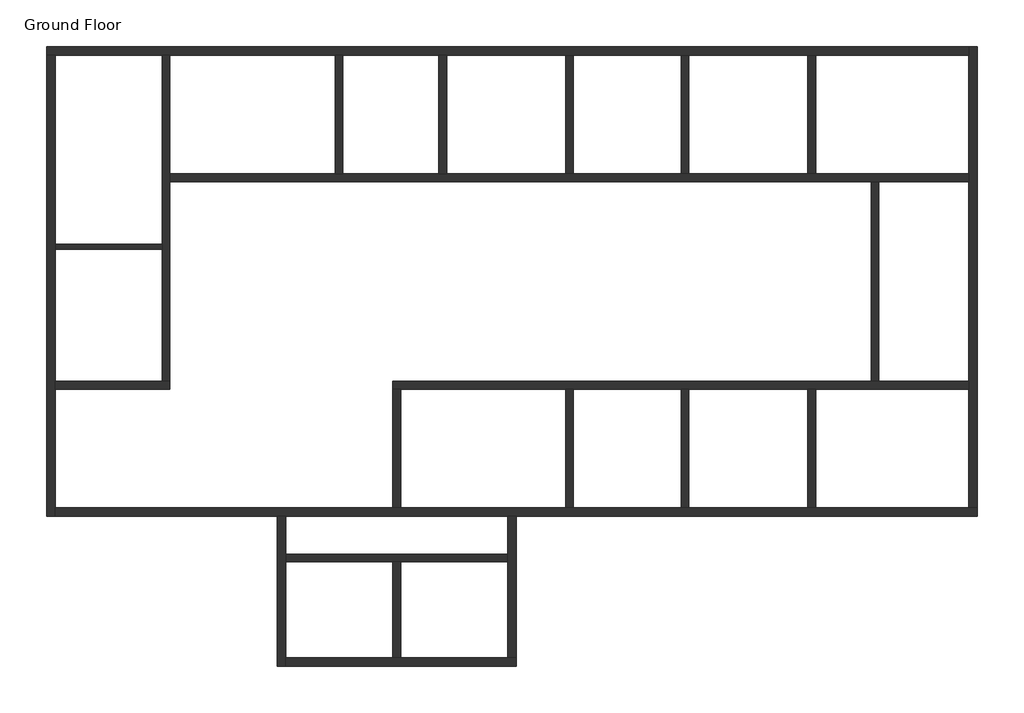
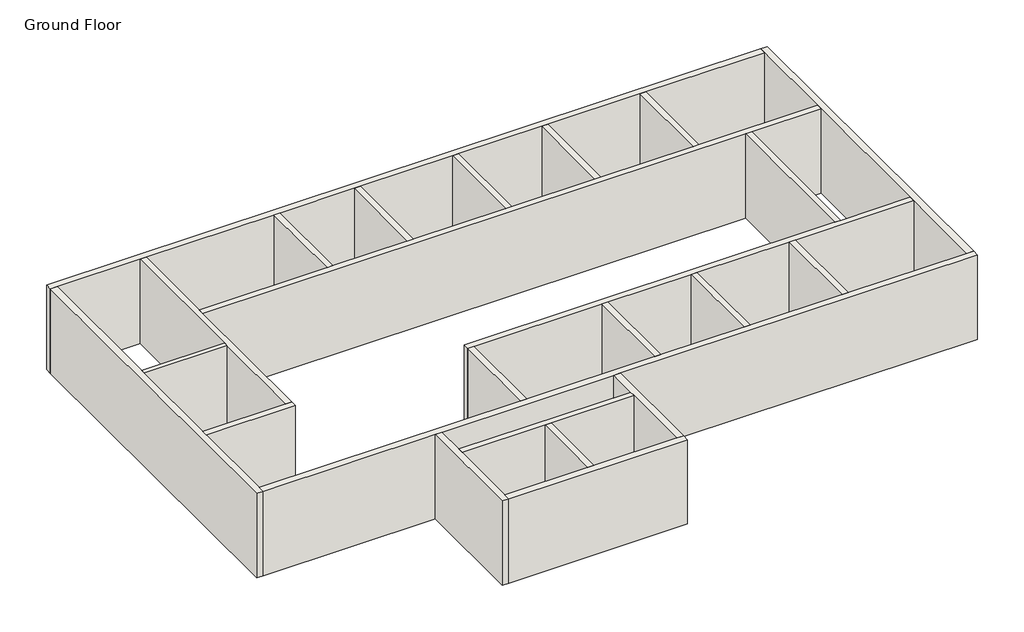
# One storey: 24 walls.
"""IFC4 building model written with IfcOpenShell, lengths in millimetres."""

from ifc_helpers import new_model, si_unit, origin, origin_with_axes, place, context, project, spatial, polyline, outline, extrude, faceted_brep, element, save

model = new_model("IFC4")

# Units and contexts
model_context = context("Model", 3, world=origin())
ifc_project = project(units=[si_unit("LENGTHUNIT", "METRE", prefix="MILLI")], contexts=[model_context])

# Site, building, storey
site = spatial("IfcSite", under=ifc_project)
building = spatial("IfcBuilding", under=site)
storey = spatial("IfcBuildingStorey", under=building, Name="Ground Floor", Elevation=0.0)

# Walls
placement = place(None, origin())
element("IfcWall", 1, ObjectType="Generic - 5\"", at=placement, inside=storey, context=model_context, shape_type="SweptSolid", body=[
    extrude(outline(polyline([(-9539.2044048, 2529.4851347), (-12371.3044048, 2529.4851347), (-12371.3044048, 2656.4851347), (-9539.2044048, 2656.4851347), (-9539.2044048, 2529.4851347)])), origin_with_axes(), (0.0, 0.0, 1.0), 3048.0),
])
element("IfcWall", 2, ObjectType="Generic - 8\"", at=placement, inside=storey, context=model_context, shape_type="Brep", body=[
    faceted_brep([(-9539.2044048, 7660.2851347, 0.0), (-9539.2044048, 2656.4851347, 0.0), (-9539.2044048, 2529.4851347, 0.0), (-9539.2044048, -963.0148653, 0.0), (-9539.2044048, -963.0148653, 3048.0), (-9539.2044048, 2529.4851347, 3048.0), (-9539.2044048, 2656.4851347, 3048.0), (-9539.2044048, 7660.2851347, 3048.0), (-9336.0044048, 7660.2851347, 0.0), (-9336.0044048, 7660.2851347, 3048.0), (-9336.0044048, 4523.3851347, 3048.0), (-9336.0044048, 4320.1851347, 3048.0), (-9336.0044048, -963.0148653, 3048.0), (-9336.0044048, -963.0148653, 0.0), (-9336.0044048, 4320.1851347, 0.0), (-9336.0044048, 4523.3851347, 0.0)], [[[0, 1, 2, 3, 4, 5, 6, 7]], [[8, 9, 10, 11, 12, 13, 14, 15]], [[3, 2, 1, 0, 8, 15, 14, 13]], [[7, 6, 5, 4, 12, 11, 10, 9]], [[0, 7, 9, 8]], [[4, 3, 13, 12]]]),
])
element("IfcWall", 3, ObjectType="Generic - 8\"", at=placement, inside=storey, context=model_context, shape_type="Brep", body=[
    faceted_brep([(-9336.0044048, -963.0148653, 0.0), (-9539.2044048, -963.0148653, 0.0), (-12371.3044048, -963.0148653, 0.0), (-12371.3044048, -963.0148653, 3048.0), (-9539.2044048, -963.0148653, 3048.0), (-9336.0044048, -963.0148653, 3048.0), (-9336.0044048, -1166.2148653, 0.0), (-9336.0044048, -1166.2148653, 3048.0), (-12371.3044048, -1166.2148653, 3048.0), (-12371.3044048, -1166.2148653, 0.0)], [[[0, 1, 2, 3, 4, 5]], [[6, 7, 8, 9]], [[2, 1, 0, 6, 9]], [[5, 4, 3, 8, 7]], [[3, 2, 9, 8]], [[0, 5, 7, 6]]]),
])
element("IfcWall", 4, ObjectType="Generic - 8\"", at=placement, inside=storey, context=model_context, shape_type="Brep", body=[
    faceted_brep([(-9336.0044048, 4320.1851347, 0.0), (9205.9955952, 4320.1851347, 0.0), (9409.1955952, 4320.1851347, 0.0), (11784.0955952, 4320.1851347, 0.0), (11784.0955952, 4320.1851347, 3048.0), (9409.1955952, 4320.1851347, 3048.0), (9205.9955952, 4320.1851347, 3048.0), (-9336.0044048, 4320.1851347, 3048.0), (-9336.0044048, 4523.3851347, 0.0), (-9336.0044048, 4523.3851347, 3048.0), (-4967.2044048, 4523.3851347, 3048.0), (-4764.0044048, 4523.3851347, 3048.0), (-2224.0044048, 4523.3851347, 3048.0), (-2020.8044048, 4523.3851347, 3048.0), (1128.7955952, 4523.3851347, 3048.0), (1331.9955952, 4523.3851347, 3048.0), (4176.7955952, 4523.3851347, 3048.0), (4379.9955952, 4523.3851347, 3048.0), (7529.5955952, 4523.3851347, 3048.0), (7732.7955952, 4523.3851347, 3048.0), (11784.0955952, 4523.3851347, 3048.0), (11784.0955952, 4523.3851347, 0.0), (7732.7955952, 4523.3851347, 0.0), (7529.5955952, 4523.3851347, 0.0), (4379.9955952, 4523.3851347, 0.0), (4176.7955952, 4523.3851347, 0.0), (1331.9955952, 4523.3851347, 0.0), (1128.7955952, 4523.3851347, 0.0), (-2020.8044048, 4523.3851347, 0.0), (-2224.0044048, 4523.3851347, 0.0), (-4764.0044048, 4523.3851347, 0.0), (-4967.2044048, 4523.3851347, 0.0)], [[[0, 1, 2, 3, 4, 5, 6, 7]], [[8, 9, 10, 11, 12, 13, 14, 15, 16, 17, 18, 19, 20, 21, 22, 23, 24, 25, 26, 27, 28, 29, 30, 31]], [[3, 2, 1, 0, 8, 31, 30, 29, 28, 27, 26, 25, 24, 23, 22, 21]], [[7, 6, 5, 4, 20, 19, 18, 17, 16, 15, 14, 13, 12, 11, 10, 9]], [[4, 3, 21, 20]], [[0, 7, 9, 8]]]),
])
element("IfcWall", 5, ObjectType="Generic - 8\"", at=placement, inside=storey, context=model_context, shape_type="SweptSolid", body=[
    extrude(outline(polyline([(-4764.0044048, 7660.2851347), (-4764.0044048, 4523.3851347), (-4967.2044048, 4523.3851347), (-4967.2044048, 7660.2851347), (-4764.0044048, 7660.2851347)])), origin_with_axes(), (0.0, 0.0, 1.0), 3048.0),
])
element("IfcWall", 6, ObjectType="Generic - 8\"", at=placement, inside=storey, context=model_context, shape_type="SweptSolid", body=[
    extrude(outline(polyline([(-2224.0044048, 4523.3851347), (-2224.0044048, 7660.2851347), (-2020.8044048, 7660.2851347), (-2020.8044048, 4523.3851347), (-2224.0044048, 4523.3851347)])), origin_with_axes(), (0.0, 0.0, 1.0), 3048.0),
])
element("IfcWall", 7, ObjectType="Generic - 8\"", at=placement, inside=storey, context=model_context, shape_type="SweptSolid", body=[
    extrude(outline(polyline([(1128.7955952, 4523.3851347), (1128.7955952, 7660.2851347), (1331.9955952, 7660.2851347), (1331.9955952, 4523.3851347), (1128.7955952, 4523.3851347)])), origin_with_axes(), (0.0, 0.0, 1.0), 3048.0),
])
element("IfcWall", 8, ObjectType="Generic - 8\"", at=placement, inside=storey, context=model_context, shape_type="SweptSolid", body=[
    extrude(outline(polyline([(4176.7955952, 4523.3851347), (4176.7955952, 7660.2851347), (4379.9955952, 7660.2851347), (4379.9955952, 4523.3851347), (4176.7955952, 4523.3851347)])), origin_with_axes(), (0.0, 0.0, 1.0), 3048.0),
])
element("IfcWall", 9, ObjectType="Generic - 8\"", at=placement, inside=storey, context=model_context, shape_type="SweptSolid", body=[
    extrude(outline(polyline([(7529.5955952, 4523.3851347), (7529.5955952, 7660.2851347), (7732.7955952, 7660.2851347), (7732.7955952, 4523.3851347), (7529.5955952, 4523.3851347)])), origin_with_axes(), (0.0, 0.0, 1.0), 3048.0),
])
element("IfcWall", 10, ObjectType="Generic - 8\"", at=placement, inside=storey, context=model_context, shape_type="Brep", body=[
    faceted_brep([(-3443.2044048, -1166.2148653, 0.0), (-3240.0044048, -1166.2148653, 0.0), (1128.7955952, -1166.2148653, 0.0), (1331.9955952, -1166.2148653, 0.0), (4176.7955952, -1166.2148653, 0.0), (4379.9955952, -1166.2148653, 0.0), (7529.5955952, -1166.2148653, 0.0), (7732.7955952, -1166.2148653, 0.0), (11784.0955952, -1166.2148653, 0.0), (11784.0955952, -1166.2148653, 3048.0), (7732.7955952, -1166.2148653, 3048.0), (7529.5955952, -1166.2148653, 3048.0), (4379.9955952, -1166.2148653, 3048.0), (4176.7955952, -1166.2148653, 3048.0), (1331.9955952, -1166.2148653, 3048.0), (1128.7955952, -1166.2148653, 3048.0), (-3240.0044048, -1166.2148653, 3048.0), (-3443.2044048, -1166.2148653, 3048.0), (-3443.2044048, -963.0148653, 0.0), (-3443.2044048, -963.0148653, 3048.0), (9205.9955952, -963.0148653, 3048.0), (9409.1955952, -963.0148653, 3048.0), (11784.0955952, -963.0148653, 3048.0), (11784.0955952, -963.0148653, 0.0), (9409.1955952, -963.0148653, 0.0), (9205.9955952, -963.0148653, 0.0)], [[[0, 1, 2, 3, 4, 5, 6, 7, 8, 9, 10, 11, 12, 13, 14, 15, 16, 17]], [[18, 19, 20, 21, 22, 23, 24, 25]], [[8, 7, 6, 5, 4, 3, 2, 1, 0, 18, 25, 24, 23]], [[17, 16, 15, 14, 13, 12, 11, 10, 9, 22, 21, 20, 19]], [[9, 8, 23, 22]], [[0, 17, 19, 18]]]),
])
element("IfcWall", 11, ObjectType="Generic - 8\"", at=placement, inside=storey, context=model_context, shape_type="SweptSolid", body=[
    extrude(outline(polyline([(-3240.0044048, -1166.2148653), (-3240.0044048, -4303.1148653), (-3443.2044048, -4303.1148653), (-3443.2044048, -1166.2148653), (-3240.0044048, -1166.2148653)])), origin_with_axes(), (0.0, 0.0, 1.0), 3048.0),
])
element("IfcWall", 12, ObjectType="Generic - 8\"", at=placement, inside=storey, context=model_context, shape_type="SweptSolid", body=[
    extrude(outline(polyline([(1331.9955952, -1166.2148653), (1331.9955952, -4303.1148653), (1128.7955952, -4303.1148653), (1128.7955952, -1166.2148653), (1331.9955952, -1166.2148653)])), origin_with_axes(), (0.0, 0.0, 1.0), 3048.0),
])
element("IfcWall", 13, ObjectType="Generic - 8\"", at=placement, inside=storey, context=model_context, shape_type="SweptSolid", body=[
    extrude(outline(polyline([(4379.9955952, -1166.2148653), (4379.9955952, -4303.1148653), (4176.7955952, -4303.1148653), (4176.7955952, -1166.2148653), (4379.9955952, -1166.2148653)])), origin_with_axes(), (0.0, 0.0, 1.0), 3048.0),
])
element("IfcWall", 14, ObjectType="Generic - 8\"", at=placement, inside=storey, context=model_context, shape_type="SweptSolid", body=[
    extrude(outline(polyline([(7732.7955952, -1166.2148653), (7732.7955952, -4303.1148653), (7529.5955952, -4303.1148653), (7529.5955952, -1166.2148653), (7732.7955952, -1166.2148653)])), origin_with_axes(), (0.0, 0.0, 1.0), 3048.0),
])
element("IfcWall", 15, ObjectType="Generic - 8\"", at=placement, inside=storey, context=model_context, shape_type="SweptSolid", body=[
    extrude(outline(polyline([(9205.9955952, -963.0148653), (9205.9955952, 4320.1851347), (9409.1955952, 4320.1851347), (9409.1955952, -963.0148653), (9205.9955952, -963.0148653)])), origin_with_axes(), (0.0, 0.0, 1.0), 3048.0),
])
element("IfcWall", 16, ObjectType="Generic - 8\"", at=placement, inside=storey, context=model_context, shape_type="SweptSolid", body=[
    extrude(outline(polyline([(-3240.0044048, -5738.2148653), (-3240.0044048, -8265.5148653), (-3443.2044048, -8265.5148653), (-3443.2044048, -5738.2148653), (-3240.0044048, -5738.2148653)])), origin_with_axes(), (0.0, 0.0, 1.0), 3048.0),
])
element("IfcWall", 17, ObjectType="Generic - 8\"", at=placement, inside=storey, context=model_context, shape_type="Brep", body=[
    faceted_brep([(-407.9044048, -5535.0148653, 0.0), (-6275.3044048, -5535.0148653, 0.0), (-6275.3044048, -5535.0148653, 3048.0), (-407.9044048, -5535.0148653, 3048.0), (-407.9044048, -5738.2148653, 0.0), (-407.9044048, -5738.2148653, 3048.0), (-3240.0044048, -5738.2148653, 3048.0), (-3443.2044048, -5738.2148653, 3048.0), (-6275.3044048, -5738.2148653, 3048.0), (-6275.3044048, -5738.2148653, 0.0), (-3443.2044048, -5738.2148653, 0.0), (-3240.0044048, -5738.2148653, 0.0)], [[[0, 1, 2, 3]], [[4, 5, 6, 7, 8, 9, 10, 11]], [[1, 0, 4, 11, 10, 9]], [[3, 2, 8, 7, 6, 5]], [[2, 1, 9, 8]], [[0, 3, 5, 4]]]),
])
element("IfcWall", 18, ObjectType="Generic- 9\"", at=placement, inside=storey, context=model_context, shape_type="Brep", body=[
    faceted_brep([(-12599.9044048, 7660.2851347, 0.0), (-12371.3044048, 7660.2851347, 0.0), (-9539.2044048, 7660.2851347, 0.0), (-9336.0044048, 7660.2851347, 0.0), (-4967.2044048, 7660.2851347, 0.0), (-4764.0044048, 7660.2851347, 0.0), (-2224.0044048, 7660.2851347, 0.0), (-2020.8044048, 7660.2851347, 0.0), (1128.7955952, 7660.2851347, 0.0), (1331.9955952, 7660.2851347, 0.0), (4176.7955952, 7660.2851347, 0.0), (4379.9955952, 7660.2851347, 0.0), (7529.5955952, 7660.2851347, 0.0), (7732.7955952, 7660.2851347, 0.0), (11784.0955952, 7660.2851347, 0.0), (11784.0955952, 7660.2851347, 3048.0), (7732.7955952, 7660.2851347, 3048.0), (7529.5955952, 7660.2851347, 3048.0), (4379.9955952, 7660.2851347, 3048.0), (4176.7955952, 7660.2851347, 3048.0), (1331.9955952, 7660.2851347, 3048.0), (1128.7955952, 7660.2851347, 3048.0), (-2020.8044048, 7660.2851347, 3048.0), (-2224.0044048, 7660.2851347, 3048.0), (-4764.0044048, 7660.2851347, 3048.0), (-4967.2044048, 7660.2851347, 3048.0), (-9336.0044048, 7660.2851347, 3048.0), (-9539.2044048, 7660.2851347, 3048.0), (-12371.3044048, 7660.2851347, 3048.0), (-12599.9044048, 7660.2851347, 3048.0), (-12599.9044048, 7888.8851347, 0.0), (-12599.9044048, 7888.8851347, 3048.0), (11784.0955952, 7888.8851347, 3048.0), (11784.0955952, 7888.8851347, 0.0)], [[[0, 1, 2, 3, 4, 5, 6, 7, 8, 9, 10, 11, 12, 13, 14, 15, 16, 17, 18, 19, 20, 21, 22, 23, 24, 25, 26, 27, 28, 29]], [[30, 31, 32, 33]], [[14, 13, 12, 11, 10, 9, 8, 7, 6, 5, 4, 3, 2, 1, 0, 30, 33]], [[29, 28, 27, 26, 25, 24, 23, 22, 21, 20, 19, 18, 17, 16, 15, 32, 31]], [[0, 29, 31, 30]], [[15, 14, 33, 32]]]),
])
element("IfcWall", 19, ObjectType="Generic- 9\"", at=placement, inside=storey, context=model_context, shape_type="Brep", body=[
    faceted_brep([(-12371.3044048, -4531.7148653, 0.0), (-12371.3044048, -4303.1148653, 0.0), (-12371.3044048, -1166.2148653, 0.0), (-12371.3044048, -963.0148653, 0.0), (-12371.3044048, 2529.4851347, 0.0), (-12371.3044048, 2656.4851347, 0.0), (-12371.3044048, 7660.2851347, 0.0), (-12371.3044048, 7660.2851347, 3048.0), (-12371.3044048, 2656.4851347, 3048.0), (-12371.3044048, 2529.4851347, 3048.0), (-12371.3044048, -963.0148653, 3048.0), (-12371.3044048, -1166.2148653, 3048.0), (-12371.3044048, -4303.1148653, 3048.0), (-12371.3044048, -4531.7148653, 3048.0), (-12599.9044048, -4531.7148653, 0.0), (-12599.9044048, -4531.7148653, 3048.0), (-12599.9044048, 7660.2851347, 3048.0), (-12599.9044048, 7660.2851347, 0.0)], [[[0, 1, 2, 3, 4, 5, 6, 7, 8, 9, 10, 11, 12, 13]], [[14, 15, 16, 17]], [[6, 5, 4, 3, 2, 1, 0, 14, 17]], [[13, 12, 11, 10, 9, 8, 7, 16, 15]], [[0, 13, 15, 14]], [[7, 6, 17, 16]]]),
])
element("IfcWall", 20, ObjectType="Generic- 9\"", at=placement, inside=storey, context=model_context, shape_type="Brep", body=[
    faceted_brep([(12012.6955952, -4303.1148653, 0.0), (11784.0955952, -4303.1148653, 0.0), (7732.7955952, -4303.1148653, 0.0), (7529.5955952, -4303.1148653, 0.0), (4379.9955952, -4303.1148653, 0.0), (4176.7955952, -4303.1148653, 0.0), (1331.9955952, -4303.1148653, 0.0), (1128.7955952, -4303.1148653, 0.0), (-3240.0044048, -4303.1148653, 0.0), (-3443.2044048, -4303.1148653, 0.0), (-12371.3044048, -4303.1148653, 0.0), (-12371.3044048, -4303.1148653, 3048.0), (-3443.2044048, -4303.1148653, 3048.0), (-3240.0044048, -4303.1148653, 3048.0), (1128.7955952, -4303.1148653, 3048.0), (1331.9955952, -4303.1148653, 3048.0), (4176.7955952, -4303.1148653, 3048.0), (4379.9955952, -4303.1148653, 3048.0), (7529.5955952, -4303.1148653, 3048.0), (7732.7955952, -4303.1148653, 3048.0), (11784.0955952, -4303.1148653, 3048.0), (12012.6955952, -4303.1148653, 3048.0), (12012.6955952, -4531.7148653, 0.0), (12012.6955952, -4531.7148653, 3048.0), (-179.3044048, -4531.7148653, 3048.0), (-407.9044048, -4531.7148653, 3048.0), (-6275.3044048, -4531.7148653, 3048.0), (-6503.9044048, -4531.7148653, 3048.0), (-12371.3044048, -4531.7148653, 3048.0), (-12371.3044048, -4531.7148653, 0.0), (-6503.9044048, -4531.7148653, 0.0), (-6275.3044048, -4531.7148653, 0.0), (-407.9044048, -4531.7148653, 0.0), (-179.3044048, -4531.7148653, 0.0)], [[[0, 1, 2, 3, 4, 5, 6, 7, 8, 9, 10, 11, 12, 13, 14, 15, 16, 17, 18, 19, 20, 21]], [[22, 23, 24, 25, 26, 27, 28, 29, 30, 31, 32, 33]], [[10, 9, 8, 7, 6, 5, 4, 3, 2, 1, 0, 22, 33, 32, 31, 30, 29]], [[21, 20, 19, 18, 17, 16, 15, 14, 13, 12, 11, 28, 27, 26, 25, 24, 23]], [[0, 21, 23, 22]], [[11, 10, 29, 28]]]),
])
element("IfcWall", 21, ObjectType="Generic- 9\"", at=placement, inside=storey, context=model_context, shape_type="Brep", body=[
    faceted_brep([(11784.0955952, 7888.8851347, 0.0), (11784.0955952, 7660.2851347, 0.0), (11784.0955952, 4523.3851347, 0.0), (11784.0955952, 4320.1851347, 0.0), (11784.0955952, -963.0148653, 0.0), (11784.0955952, -1166.2148653, 0.0), (11784.0955952, -4303.1148653, 0.0), (11784.0955952, -4303.1148653, 3048.0), (11784.0955952, -1166.2148653, 3048.0), (11784.0955952, -963.0148653, 3048.0), (11784.0955952, 4320.1851347, 3048.0), (11784.0955952, 4523.3851347, 3048.0), (11784.0955952, 7660.2851347, 3048.0), (11784.0955952, 7888.8851347, 3048.0), (12012.6955952, 7888.8851347, 0.0), (12012.6955952, 7888.8851347, 3048.0), (12012.6955952, -4303.1148653, 3048.0), (12012.6955952, -4303.1148653, 0.0)], [[[0, 1, 2, 3, 4, 5, 6, 7, 8, 9, 10, 11, 12, 13]], [[14, 15, 16, 17]], [[6, 5, 4, 3, 2, 1, 0, 14, 17]], [[13, 12, 11, 10, 9, 8, 7, 16, 15]], [[0, 13, 15, 14]], [[7, 6, 17, 16]]]),
])
element("IfcWall", 22, ObjectType="Generic- 9\"", at=placement, inside=storey, context=model_context, shape_type="Brep", body=[
    faceted_brep([(-6503.9044048, -4531.7148653, 0.0), (-6503.9044048, -8494.1148653, 0.0), (-6503.9044048, -8494.1148653, 3048.0), (-6503.9044048, -4531.7148653, 3048.0), (-6275.3044048, -4531.7148653, 0.0), (-6275.3044048, -4531.7148653, 3048.0), (-6275.3044048, -5535.0148653, 3048.0), (-6275.3044048, -5738.2148653, 3048.0), (-6275.3044048, -8265.5148653, 3048.0), (-6275.3044048, -8494.1148653, 3048.0), (-6275.3044048, -8494.1148653, 0.0), (-6275.3044048, -8265.5148653, 0.0), (-6275.3044048, -5738.2148653, 0.0), (-6275.3044048, -5535.0148653, 0.0)], [[[0, 1, 2, 3]], [[4, 5, 6, 7, 8, 9, 10, 11, 12, 13]], [[1, 0, 4, 13, 12, 11, 10]], [[3, 2, 9, 8, 7, 6, 5]], [[0, 3, 5, 4]], [[2, 1, 10, 9]]]),
])
element("IfcWall", 23, ObjectType="Generic- 9\"", at=placement, inside=storey, context=model_context, shape_type="Brep", body=[
    faceted_brep([(-6275.3044048, -8494.1148653, 0.0), (-179.3044048, -8494.1148653, 0.0), (-179.3044048, -8494.1148653, 3048.0), (-6275.3044048, -8494.1148653, 3048.0), (-6275.3044048, -8265.5148653, 0.0), (-6275.3044048, -8265.5148653, 3048.0), (-3443.2044048, -8265.5148653, 3048.0), (-3240.0044048, -8265.5148653, 3048.0), (-407.9044048, -8265.5148653, 3048.0), (-179.3044048, -8265.5148653, 3048.0), (-179.3044048, -8265.5148653, 0.0), (-407.9044048, -8265.5148653, 0.0), (-3240.0044048, -8265.5148653, 0.0), (-3443.2044048, -8265.5148653, 0.0)], [[[0, 1, 2, 3]], [[4, 5, 6, 7, 8, 9, 10, 11, 12, 13]], [[1, 0, 4, 13, 12, 11, 10]], [[3, 2, 9, 8, 7, 6, 5]], [[0, 3, 5, 4]], [[2, 1, 10, 9]]]),
])
element("IfcWall", 24, ObjectType="Generic- 9\"", at=placement, inside=storey, context=model_context, shape_type="Brep", body=[
    faceted_brep([(-179.3044048, -8265.5148653, 0.0), (-179.3044048, -4531.7148653, 0.0), (-179.3044048, -4531.7148653, 3048.0), (-179.3044048, -8265.5148653, 3048.0), (-407.9044048, -8265.5148653, 0.0), (-407.9044048, -8265.5148653, 3048.0), (-407.9044048, -5738.2148653, 3048.0), (-407.9044048, -5535.0148653, 3048.0), (-407.9044048, -4531.7148653, 3048.0), (-407.9044048, -4531.7148653, 0.0), (-407.9044048, -5535.0148653, 0.0), (-407.9044048, -5738.2148653, 0.0)], [[[0, 1, 2, 3]], [[4, 5, 6, 7, 8, 9, 10, 11]], [[1, 0, 4, 11, 10, 9]], [[3, 2, 8, 7, 6, 5]], [[0, 3, 5, 4]], [[2, 1, 9, 8]]]),
])

save(model, "model.ifc")
